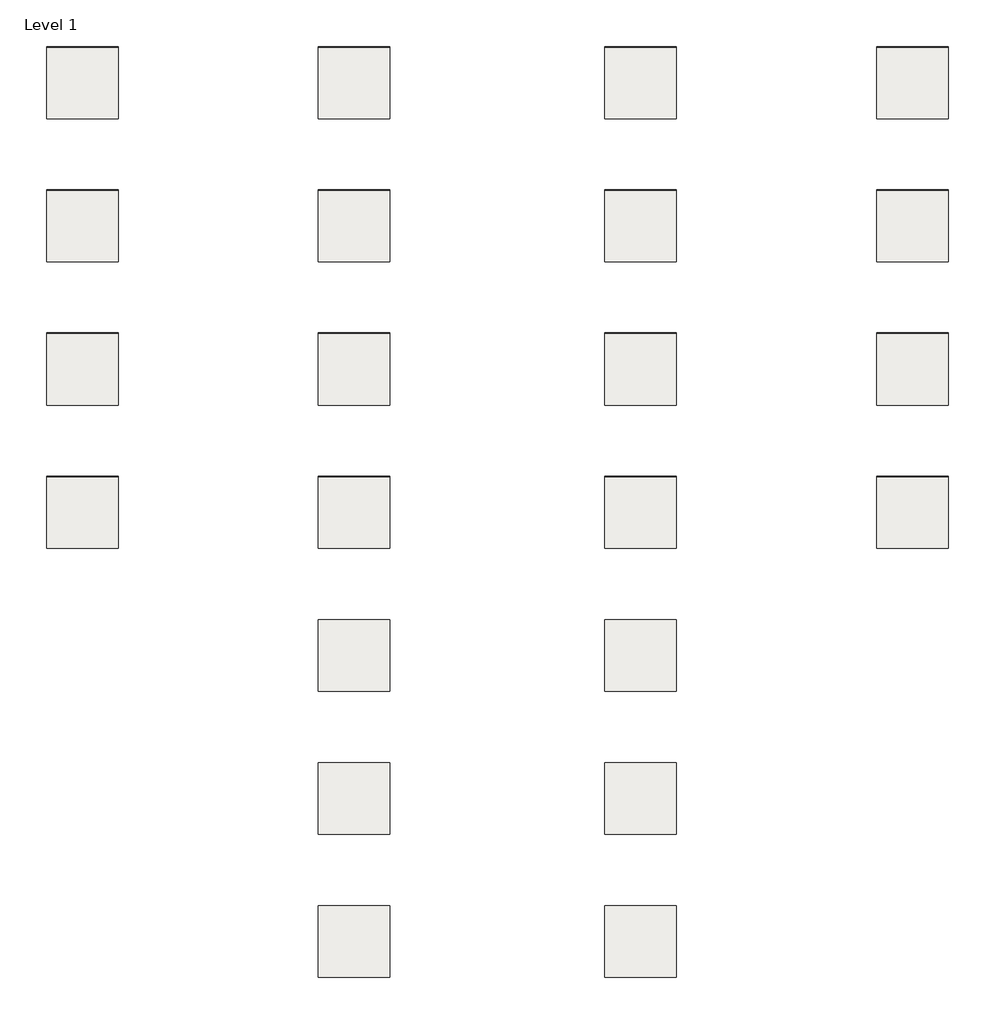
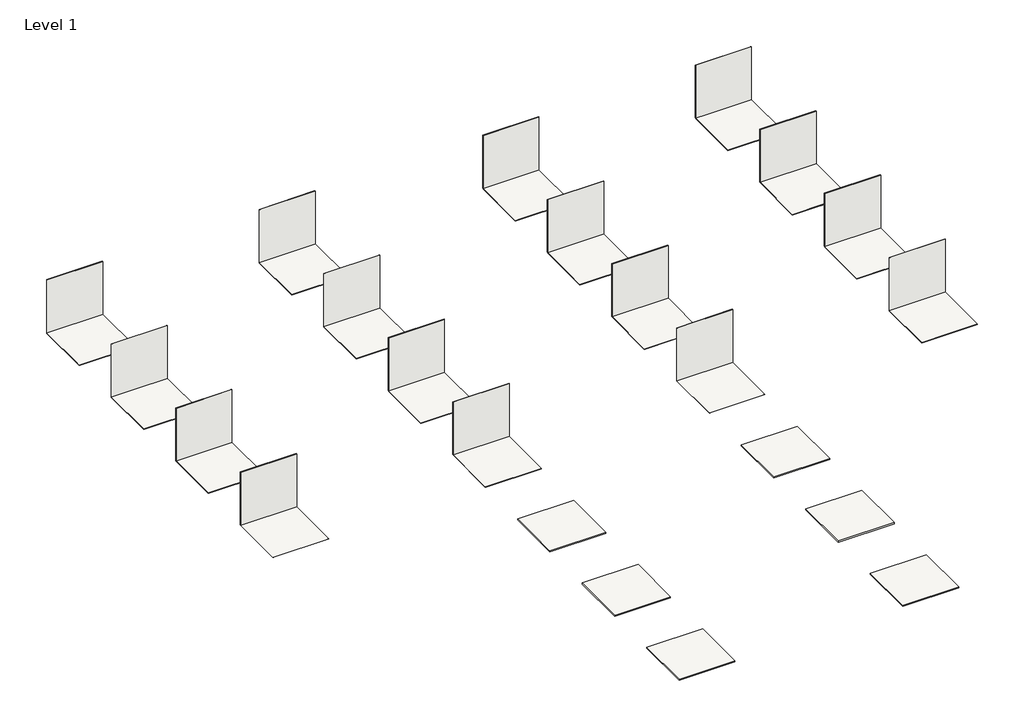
# One storey: 38 coverings.
"""IFC4 building model written with IfcOpenShell, lengths in millimetres."""

from ifc_helpers import new_model, si_unit, frame, origin, origin_with_axes, place, context, project, spatial, polyline, outline, extrude, element, save

model = new_model("IFC4")

# Units and contexts
model_context = context("Model", 3, world=origin())
ifc_project = project(units=[si_unit("LENGTHUNIT", "METRE", prefix="MILLI")], contexts=[model_context])

# Site, building, storey
site = spatial("IfcSite", under=ifc_project)
building = spatial("IfcBuilding", under=site)
storey = spatial("IfcBuildingStorey", under=building, Name="Level 1", Elevation=0.0)

# Coverings
placement = place(None, origin())
element("IfcCovering", 1, ObjectType="REVIGRES-BLEND-BASE-88.9x88.9-MATTRECT-OFFWHITE", at=placement, inside=storey, context=model_context, shape_type="SweptSolid", body=[
    extrude(outline(polyline([(4378.642714, -3291.9242026), (3378.642714, -3291.9242026), (3378.642714, -3281.4242026), (4378.642714, -3281.4242026), (4378.642714, -3291.9242026)])), origin_with_axes(), (0.0, 0.0, 1.0), 1000.0),
])
element("IfcCovering", 2, ObjectType="REVIGRES-BLEND-BASE-88.9x88.9-MATTRECT-OFFWHITE", at=placement, inside=storey, context=model_context, shape_type="SweptSolid", body=[
    extrude(outline(polyline([(4378.642714, -3291.9242026), (4378.642714, -4291.9242026), (3378.642714, -4291.9242026), (3378.642714, -3291.9242026), (4378.642714, -3291.9242026)])), frame((0.0, 0.0, -10.5), z_axis=(0.0, 0.0, 1.0), x_axis=(1.0, 0.0, 0.0)), (0.0, 0.0, 1.0), 10.5),
])
element("IfcCovering", 3, ObjectType="REVIGRES-BLEND-BASE-88.9x88.9-MATTRECT-FOG", at=placement, inside=storey, context=model_context, shape_type="SweptSolid", body=[
    extrude(outline(polyline([(8178.642714, -3291.9242026), (7178.642714, -3291.9242026), (7178.642714, -3281.4242026), (8178.642714, -3281.4242026), (8178.642714, -3291.9242026)])), origin_with_axes(), (0.0, 0.0, 1.0), 1000.0),
])
element("IfcCovering", 4, ObjectType="REVIGRES-BLEND-BASE-88.9x88.9-MATTRECT-FOG", at=placement, inside=storey, context=model_context, shape_type="SweptSolid", body=[
    extrude(outline(polyline([(8178.642714, -3291.9242026), (8178.642714, -4291.9242026), (7178.642714, -4291.9242026), (7178.642714, -3291.9242026), (8178.642714, -3291.9242026)])), frame((0.0, 0.0, -10.5), z_axis=(0.0, 0.0, 1.0), x_axis=(1.0, 0.0, 0.0)), (0.0, 0.0, 1.0), 10.5),
])
element("IfcCovering", 5, ObjectType="REVIGRES-BLEND-BASE-88.9x88.9-MATTRECT-DESERT", at=placement, inside=storey, context=model_context, shape_type="SweptSolid", body=[
    extrude(outline(polyline([(12178.642714, -3291.9242026), (11178.642714, -3291.9242026), (11178.642714, -3281.4242026), (12178.642714, -3281.4242026), (12178.642714, -3291.9242026)])), origin_with_axes(), (0.0, 0.0, 1.0), 1000.0),
])
element("IfcCovering", 6, ObjectType="REVIGRES-BLEND-BASE-88.9x88.9-MATTRECT-DESERT", at=placement, inside=storey, context=model_context, shape_type="SweptSolid", body=[
    extrude(outline(polyline([(12178.642714, -3291.9242026), (12178.642714, -4291.9242026), (11178.642714, -4291.9242026), (11178.642714, -3291.9242026), (12178.642714, -3291.9242026)])), frame((0.0, 0.0, -10.5), z_axis=(0.0, 0.0, 1.0), x_axis=(1.0, 0.0, 0.0)), (0.0, 0.0, 1.0), 10.5),
])
element("IfcCovering", 7, ObjectType="REVIGRES-BLEND-BASE-88.9x88.9-MATTRECT-MINT", at=placement, inside=storey, context=model_context, shape_type="SweptSolid", body=[
    extrude(outline(polyline([(15978.642714, -3291.9242026), (14978.642714, -3291.9242026), (14978.642714, -3281.4242026), (15978.642714, -3281.4242026), (15978.642714, -3291.9242026)])), origin_with_axes(), (0.0, 0.0, 1.0), 1000.0),
])
element("IfcCovering", 8, ObjectType="REVIGRES-BLEND-BASE-88.9x88.9-MATTRECT-MINT", at=placement, inside=storey, context=model_context, shape_type="SweptSolid", body=[
    extrude(outline(polyline([(15978.642714, -3291.9242026), (15978.642714, -4291.9242026), (14978.642714, -4291.9242026), (14978.642714, -3291.9242026), (15978.642714, -3291.9242026)])), frame((0.0, 0.0, -10.5), z_axis=(0.0, 0.0, 1.0), x_axis=(1.0, 0.0, 0.0)), (0.0, 0.0, 1.0), 10.5),
])
element("IfcCovering", 9, ObjectType="REVIGRES-BLEND-BASE-59.2x118.6-MATTRECT-OFFWHITE", at=placement, inside=storey, context=model_context, shape_type="SweptSolid", body=[
    extrude(outline(polyline([(4378.642714, -5291.9242026), (3378.642714, -5291.9242026), (3378.642714, -5282.1242026), (4378.642714, -5282.1242026), (4378.642714, -5291.9242026)])), origin_with_axes(), (0.0, 0.0, 1.0), 1000.0),
])
element("IfcCovering", 10, ObjectType="REVIGRES-BLEND-BASE-59.2x118.6-MATTRECT-OFFWHITE", at=placement, inside=storey, context=model_context, shape_type="SweptSolid", body=[
    extrude(outline(polyline([(4378.642714, -5291.9242026), (4378.642714, -6291.9242026), (3378.642714, -6291.9242026), (3378.642714, -5291.9242026), (4378.642714, -5291.9242026)])), frame((0.0, 0.0, -9.8), z_axis=(0.0, 0.0, 1.0), x_axis=(1.0, 0.0, 0.0)), (0.0, 0.0, 1.0), 9.8),
])
element("IfcCovering", 11, ObjectType="REVIGRES-BLEND-BASE-59.2x118.6-MATTRECT-FOG", at=placement, inside=storey, context=model_context, shape_type="SweptSolid", body=[
    extrude(outline(polyline([(8178.642714, -5291.9242026), (7178.642714, -5291.9242026), (7178.642714, -5282.1242026), (8178.642714, -5282.1242026), (8178.642714, -5291.9242026)])), origin_with_axes(), (0.0, 0.0, 1.0), 1000.0),
])
element("IfcCovering", 12, ObjectType="REVIGRES-BLEND-BASE-59.2x118.6-MATTRECT-FOG", at=placement, inside=storey, context=model_context, shape_type="SweptSolid", body=[
    extrude(outline(polyline([(8178.642714, -5291.9242026), (8178.642714, -6291.9242026), (7178.642714, -6291.9242026), (7178.642714, -5291.9242026), (8178.642714, -5291.9242026)])), frame((0.0, 0.0, -9.8), z_axis=(0.0, 0.0, 1.0), x_axis=(1.0, 0.0, 0.0)), (0.0, 0.0, 1.0), 9.8),
])
element("IfcCovering", 13, ObjectType="REVIGRES-BLEND-BASE-59.2x118.6-MATTRECT-DESERT", at=placement, inside=storey, context=model_context, shape_type="SweptSolid", body=[
    extrude(outline(polyline([(12178.642714, -5291.9242026), (11178.642714, -5291.9242026), (11178.642714, -5282.1242026), (12178.642714, -5282.1242026), (12178.642714, -5291.9242026)])), origin_with_axes(), (0.0, 0.0, 1.0), 1000.0),
])
element("IfcCovering", 14, ObjectType="REVIGRES-BLEND-BASE-59.2x118.6-MATTRECT-DESERT", at=placement, inside=storey, context=model_context, shape_type="SweptSolid", body=[
    extrude(outline(polyline([(12178.642714, -5291.9242026), (12178.642714, -6291.9242026), (11178.642714, -6291.9242026), (11178.642714, -5291.9242026), (12178.642714, -5291.9242026)])), frame((0.0, 0.0, -9.8), z_axis=(0.0, 0.0, 1.0), x_axis=(1.0, 0.0, 0.0)), (0.0, 0.0, 1.0), 9.8),
])
element("IfcCovering", 15, ObjectType="REVIGRES-BLEND-BASE-59.2x118.6-MATTRECT-MINT", at=placement, inside=storey, context=model_context, shape_type="SweptSolid", body=[
    extrude(outline(polyline([(15978.642714, -5291.9242026), (14978.642714, -5291.9242026), (14978.642714, -5282.1242026), (15978.642714, -5282.1242026), (15978.642714, -5291.9242026)])), origin_with_axes(), (0.0, 0.0, 1.0), 1000.0),
])
element("IfcCovering", 16, ObjectType="REVIGRES-BLEND-BASE-59.2x118.6-MATTRECT-MINT", at=placement, inside=storey, context=model_context, shape_type="SweptSolid", body=[
    extrude(outline(polyline([(15978.642714, -5291.9242026), (15978.642714, -6291.9242026), (14978.642714, -6291.9242026), (14978.642714, -5291.9242026), (15978.642714, -5291.9242026)])), frame((0.0, 0.0, -9.8), z_axis=(0.0, 0.0, 1.0), x_axis=(1.0, 0.0, 0.0)), (0.0, 0.0, 1.0), 9.8),
])
element("IfcCovering", 17, ObjectType="REVIGRES-BLEND-BASE-118.6x118.6-MATTRECT-OFFWHITE", at=placement, inside=storey, context=model_context, shape_type="SweptSolid", body=[
    extrude(outline(polyline([(4378.642714, -7291.9242026), (3378.642714, -7291.9242026), (3378.642714, -7282.9242026), (4378.642714, -7282.9242026), (4378.642714, -7291.9242026)])), origin_with_axes(), (0.0, 0.0, 1.0), 1000.0),
])
element("IfcCovering", 18, ObjectType="REVIGRES-BLEND-BASE-118.6x118.6-MATTRECT-OFFWHITE", at=placement, inside=storey, context=model_context, shape_type="SweptSolid", body=[
    extrude(outline(polyline([(4378.642714, -7291.9242026), (4378.642714, -8291.9242026), (3378.642714, -8291.9242026), (3378.642714, -7291.9242026), (4378.642714, -7291.9242026)])), frame((0.0, 0.0, -9.0), z_axis=(0.0, 0.0, 1.0), x_axis=(1.0, 0.0, 0.0)), (0.0, 0.0, 1.0), 9.0),
])
element("IfcCovering", 19, ObjectType="REVIGRES-BLEND-BASE-118.6x118.6-MATTRECT-FOG", at=placement, inside=storey, context=model_context, shape_type="SweptSolid", body=[
    extrude(outline(polyline([(8178.642714, -7291.9242026), (7178.642714, -7291.9242026), (7178.642714, -7282.9242026), (8178.642714, -7282.9242026), (8178.642714, -7291.9242026)])), origin_with_axes(), (0.0, 0.0, 1.0), 1000.0),
])
element("IfcCovering", 20, ObjectType="REVIGRES-BLEND-BASE-118.6x118.6-MATTRECT-FOG", at=placement, inside=storey, context=model_context, shape_type="SweptSolid", body=[
    extrude(outline(polyline([(8178.642714, -7291.9242026), (8178.642714, -8291.9242026), (7178.642714, -8291.9242026), (7178.642714, -7291.9242026), (8178.642714, -7291.9242026)])), frame((0.0, 0.0, -9.0), z_axis=(0.0, 0.0, 1.0), x_axis=(1.0, 0.0, 0.0)), (0.0, 0.0, 1.0), 9.0),
])
element("IfcCovering", 21, ObjectType="REVIGRES-BLEND-BASE-118.6x118.6-MATTRECT-DESERT", at=placement, inside=storey, context=model_context, shape_type="SweptSolid", body=[
    extrude(outline(polyline([(12178.642714, -7291.9242026), (11178.642714, -7291.9242026), (11178.642714, -7282.9242026), (12178.642714, -7282.9242026), (12178.642714, -7291.9242026)])), origin_with_axes(), (0.0, 0.0, 1.0), 1000.0),
])
element("IfcCovering", 22, ObjectType="REVIGRES-BLEND-BASE-118.6x118.6-MATTRECT-DESERT", at=placement, inside=storey, context=model_context, shape_type="SweptSolid", body=[
    extrude(outline(polyline([(12178.642714, -7291.9242026), (12178.642714, -8291.9242026), (11178.642714, -8291.9242026), (11178.642714, -7291.9242026), (12178.642714, -7291.9242026)])), frame((0.0, 0.0, -9.0), z_axis=(0.0, 0.0, 1.0), x_axis=(1.0, 0.0, 0.0)), (0.0, 0.0, 1.0), 9.0),
])
element("IfcCovering", 23, ObjectType="REVIGRES-BLEND-BASE-118.6x118.6-MATTRECT-MINT", at=placement, inside=storey, context=model_context, shape_type="SweptSolid", body=[
    extrude(outline(polyline([(15978.642714, -7291.9242026), (14978.642714, -7291.9242026), (14978.642714, -7282.9242026), (15978.642714, -7282.9242026), (15978.642714, -7291.9242026)])), origin_with_axes(), (0.0, 0.0, 1.0), 1000.0),
])
element("IfcCovering", 24, ObjectType="REVIGRES-BLEND-BASE-118.6x118.6-MATTRECT-MINT", at=placement, inside=storey, context=model_context, shape_type="SweptSolid", body=[
    extrude(outline(polyline([(15978.642714, -7291.9242026), (15978.642714, -8291.9242026), (14978.642714, -8291.9242026), (14978.642714, -7291.9242026), (15978.642714, -7291.9242026)])), frame((0.0, 0.0, -9.0), z_axis=(0.0, 0.0, 1.0), x_axis=(1.0, 0.0, 0.0)), (0.0, 0.0, 1.0), 9.0),
])
element("IfcCovering", 25, ObjectType="REVIGRES-BLEND-BASE-118.6x277.8-MATTRECT-OFFWHITE", at=placement, inside=storey, context=model_context, shape_type="SweptSolid", body=[
    extrude(outline(polyline([(4378.642714, -9291.9242026), (3378.642714, -9291.9242026), (3378.642714, -9285.9242026), (4378.642714, -9285.9242026), (4378.642714, -9291.9242026)])), origin_with_axes(), (0.0, 0.0, 1.0), 1000.0),
])
element("IfcCovering", 26, ObjectType="REVIGRES-BLEND-BASE-118.6x277.8-MATTRECT-OFFWHITE", at=placement, inside=storey, context=model_context, shape_type="SweptSolid", body=[
    extrude(outline(polyline([(4378.642714, -9291.9242026), (4378.642714, -10291.9242026), (3378.642714, -10291.9242026), (3378.642714, -9291.9242026), (4378.642714, -9291.9242026)])), frame((0.0, 0.0, -6.0), z_axis=(0.0, 0.0, 1.0), x_axis=(1.0, 0.0, 0.0)), (0.0, 0.0, 1.0), 6.0),
])
element("IfcCovering", 27, ObjectType="REVIGRES-BLEND-BASE-118.6x277.8-MATTRECT-FOG", at=placement, inside=storey, context=model_context, shape_type="SweptSolid", body=[
    extrude(outline(polyline([(8178.642714, -9291.9242026), (7178.642714, -9291.9242026), (7178.642714, -9285.9242026), (8178.642714, -9285.9242026), (8178.642714, -9291.9242026)])), origin_with_axes(), (0.0, 0.0, 1.0), 1000.0),
])
element("IfcCovering", 28, ObjectType="REVIGRES-BLEND-BASE-118.6x277.8-MATTRECT-FOG", at=placement, inside=storey, context=model_context, shape_type="SweptSolid", body=[
    extrude(outline(polyline([(8178.642714, -9291.9242026), (8178.642714, -10291.9242026), (7178.642714, -10291.9242026), (7178.642714, -9291.9242026), (8178.642714, -9291.9242026)])), frame((0.0, 0.0, -6.0), z_axis=(0.0, 0.0, 1.0), x_axis=(1.0, 0.0, 0.0)), (0.0, 0.0, 1.0), 6.0),
])
element("IfcCovering", 29, ObjectType="REVIGRES-BLEND-BASE-118.6x277.8-MATTRECT-DESERT", at=placement, inside=storey, context=model_context, shape_type="SweptSolid", body=[
    extrude(outline(polyline([(12178.642714, -9291.9242026), (11178.642714, -9291.9242026), (11178.642714, -9285.9242026), (12178.642714, -9285.9242026), (12178.642714, -9291.9242026)])), origin_with_axes(), (0.0, 0.0, 1.0), 1000.0),
])
element("IfcCovering", 30, ObjectType="REVIGRES-BLEND-BASE-118.6x277.8-MATTRECT-DESERT", at=placement, inside=storey, context=model_context, shape_type="SweptSolid", body=[
    extrude(outline(polyline([(12178.642714, -9291.9242026), (12178.642714, -10291.9242026), (11178.642714, -10291.9242026), (11178.642714, -9291.9242026), (12178.642714, -9291.9242026)])), frame((0.0, 0.0, -6.0), z_axis=(0.0, 0.0, 1.0), x_axis=(1.0, 0.0, 0.0)), (0.0, 0.0, 1.0), 6.0),
])
element("IfcCovering", 31, ObjectType="REVIGRES-BLEND-BASE-118.6x277.8-MATTRECT-MINT", at=placement, inside=storey, context=model_context, shape_type="SweptSolid", body=[
    extrude(outline(polyline([(15978.642714, -9291.9242026), (14978.642714, -9291.9242026), (14978.642714, -9285.9242026), (15978.642714, -9285.9242026), (15978.642714, -9291.9242026)])), origin_with_axes(), (0.0, 0.0, 1.0), 1000.0),
])
element("IfcCovering", 32, ObjectType="REVIGRES-BLEND-BASE-118.6x277.8-MATTRECT-MINT", at=placement, inside=storey, context=model_context, shape_type="SweptSolid", body=[
    extrude(outline(polyline([(15978.642714, -9291.9242026), (15978.642714, -10291.9242026), (14978.642714, -10291.9242026), (14978.642714, -9291.9242026), (15978.642714, -9291.9242026)])), frame((0.0, 0.0, -6.0), z_axis=(0.0, 0.0, 1.0), x_axis=(1.0, 0.0, 0.0)), (0.0, 0.0, 1.0), 6.0),
])
element("IfcCovering", 33, ObjectType="REVIGRES-BLEND-BASE-88.9x88.9-ANTISLIPRECT-FOG-TECH20", at=placement, inside=storey, context=model_context, shape_type="SweptSolid", body=[
    extrude(outline(polyline([(8178.642714, -11291.9242026), (8178.642714, -12291.9242026), (7178.642714, -12291.9242026), (7178.642714, -11291.9242026), (8178.642714, -11291.9242026)])), frame((0.0, 0.0, -20.0), z_axis=(0.0, 0.0, 1.0), x_axis=(1.0, 0.0, 0.0)), (0.0, 0.0, 1.0), 20.0),
])
element("IfcCovering", 34, ObjectType="REVIGRES-BLEND-BASE-88.9x88.9-ANTISLIPRECT-DESERT-TECH20", at=placement, inside=storey, context=model_context, shape_type="SweptSolid", body=[
    extrude(outline(polyline([(12178.642714, -11291.9242026), (12178.642714, -12291.9242026), (11178.642714, -12291.9242026), (11178.642714, -11291.9242026), (12178.642714, -11291.9242026)])), frame((0.0, 0.0, -20.0), z_axis=(0.0, 0.0, 1.0), x_axis=(1.0, 0.0, 0.0)), (0.0, 0.0, 1.0), 20.0),
])
element("IfcCovering", 35, ObjectType="REVIGRES-BLEND-BASE-59.2x118.6-ANTISLIPRECT-FOG-TECH20", at=placement, inside=storey, context=model_context, shape_type="SweptSolid", body=[
    extrude(outline(polyline([(8178.642714, -13291.9242026), (8178.642714, -14291.9242026), (7178.642714, -14291.9242026), (7178.642714, -13291.9242026), (8178.642714, -13291.9242026)])), frame((0.0, 0.0, -20.0), z_axis=(0.0, 0.0, 1.0), x_axis=(1.0, 0.0, 0.0)), (0.0, 0.0, 1.0), 20.0),
])
element("IfcCovering", 36, ObjectType="REVIGRES-BLEND-BASE-59.2x118.6-ANTISLIPRECT-DESERT-TECH20", at=placement, inside=storey, context=model_context, shape_type="SweptSolid", body=[
    extrude(outline(polyline([(12178.642714, -13291.9242026), (12178.642714, -14291.9242026), (11178.642714, -14291.9242026), (11178.642714, -13291.9242026), (12178.642714, -13291.9242026)])), frame((0.0, 0.0, -20.0), z_axis=(0.0, 0.0, 1.0), x_axis=(1.0, 0.0, 0.0)), (0.0, 0.0, 1.0), 20.0),
])
element("IfcCovering", 37, ObjectType="REVIGRES-BLEND-BASE-118.6x118.6-ANTISLIPRECT-FOG-TECH20", at=placement, inside=storey, context=model_context, shape_type="SweptSolid", body=[
    extrude(outline(polyline([(8178.642714, -15291.9242026), (8178.642714, -16291.9242026), (7178.642714, -16291.9242026), (7178.642714, -15291.9242026), (8178.642714, -15291.9242026)])), frame((0.0, 0.0, -20.0), z_axis=(0.0, 0.0, 1.0), x_axis=(1.0, 0.0, 0.0)), (0.0, 0.0, 1.0), 20.0),
])
element("IfcCovering", 38, ObjectType="REVIGRES-BLEND-BASE-118.6x118.6-ANTISLIPRECT-DESERT-TECH20", at=placement, inside=storey, context=model_context, shape_type="SweptSolid", body=[
    extrude(outline(polyline([(12178.642714, -15291.9242026), (12178.642714, -16291.9242026), (11178.642714, -16291.9242026), (11178.642714, -15291.9242026), (12178.642714, -15291.9242026)])), frame((0.0, 0.0, -20.0), z_axis=(0.0, 0.0, 1.0), x_axis=(1.0, 0.0, 0.0)), (0.0, 0.0, 1.0), 20.0),
])

save(model, "model.ifc")
